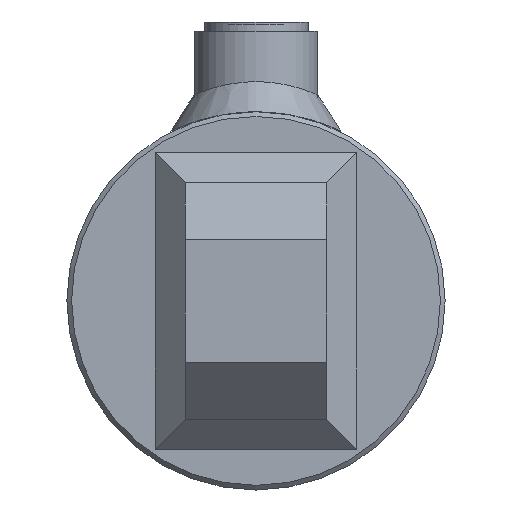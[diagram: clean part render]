
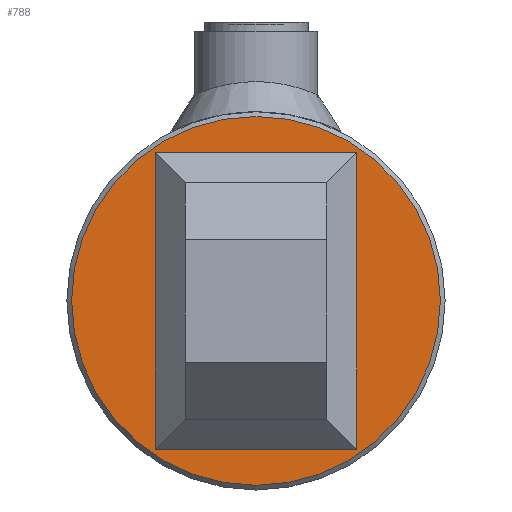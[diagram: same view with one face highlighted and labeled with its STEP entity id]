
A CAD part, left-side view. The second image highlights one B-rep face of the part: STEP entity #788.
In plain terms, the highlighted planar face has unit normal (-1, 0, 0).
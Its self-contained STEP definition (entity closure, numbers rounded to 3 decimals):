
#788 = ADVANCED_FACE( '', ( #1456 ), #1457, .T. );
#1456 = FACE_OUTER_BOUND( '', #2634, .T. );
#1457 = PLANE( '', #2635 );
#2634 = EDGE_LOOP( '', ( #6014 ) );
#2635 = AXIS2_PLACEMENT_3D( '', #6015, #6016, #6017 );
#6014 = ORIENTED_EDGE( '', *, *, #7486, .T. );
#6015 = CARTESIAN_POINT( '', ( -12., 0., 0. ) );
#6016 = DIRECTION( '', ( -1., 0., 0. ) );
#6017 = DIRECTION( '', ( 0., -1., 0. ) );
#7486 = EDGE_CURVE( '', #8185, #8185, #8186, .T. );
#8185 = VERTEX_POINT( '', #9097 );
#8186 = CIRCLE( '', #9098, 39. );
#9097 = CARTESIAN_POINT( '', ( -12., -39., 0. ) );
#9098 = AXIS2_PLACEMENT_3D( '', #10890, #10891, #10892 );
#10890 = CARTESIAN_POINT( '', ( -12., 0., 0. ) );
#10891 = DIRECTION( '', ( -1., 0., 0. ) );
#10892 = DIRECTION( '', ( 0., -1., 0. ) );
